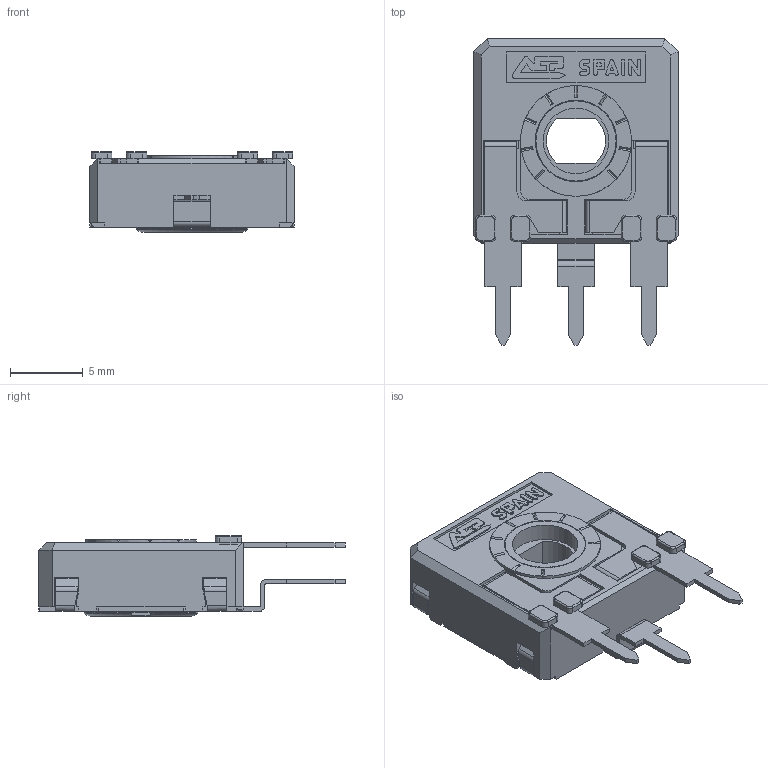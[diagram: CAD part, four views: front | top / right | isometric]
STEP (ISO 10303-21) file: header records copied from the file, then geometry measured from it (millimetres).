
FILE_DESCRIPTION(/* description */ (''),/* implementation_level */ '2;1');
FILE_NAME(/* name */ 'C:\Users\CEM\Desktop\ENVIAR\TRANSICION 3D CATALOGOS\RS14NH2,5.stp',/* time_stamp */ '2025-12-10T11:22:10+01:00',/* author */ ('CEM'),/* organization */ (''),/* preprocessor_version */ 'ST-DEVELOPER v16.13',/* originating_system */ 'Autodesk Inventor 2018',/* authorisation */ '');
FILE_SCHEMA (('CONFIG_CONTROL_DESIGN','AUTOMOTIVE_DESIGN { 1 0 10303 214 3 1 1 }'));
Length unit declared in the file: millimetre
Products named in the file (1): CA14NH2,5
Bounding box: 14 x 21 x 5.55 mm (x, y, z)
Volume: 522.9 mm3; surface area: 1443.6 mm2
Topology: 1 solids, 1 shells, 663 faces, 1863 edges, 1197 vertices
Faces by surface type: plane 491, cylinder 135, torus 23, bspline 8, cone 6
Full cylindrical faces by diameter (mm): 4.5 x1, 5.5 x1, 5.6 x1, 5.752 x1, 6.8 x1, 7.6 x1
Entity records: 21424 total; most frequent: CARTESIAN_POINT 3916, ORIENTED_EDGE 3696, DIRECTION 3486, EDGE_CURVE 1848, LINE 1466, VECTOR 1466, VERTEX_POINT 1192, AXIS2_PLACEMENT_3D 1010
